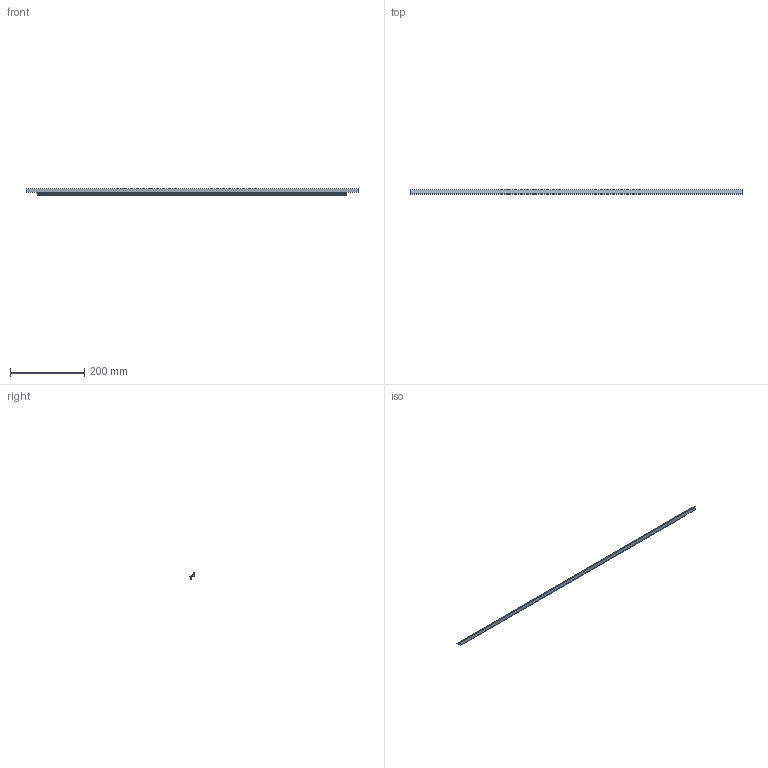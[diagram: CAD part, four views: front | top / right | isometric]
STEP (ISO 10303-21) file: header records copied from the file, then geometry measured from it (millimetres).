
FILE_DESCRIPTION( ( 'STEP AP214' ), '1' );
FILE_NAME( 'D:/Shahbaz D&D/Task/Working-ON/Correct Handle bar Riaza/QC/9208094/9208095.stp', '2023-03-13T09:07:35', ( '' ), ( '' ), ' ', 'PARTsolutions', ' ' );
FILE_SCHEMA( ( 'AUTOMOTIVE_DESIGN { 1 0 10303 214 1 1 1 1 }' ) );
Length unit declared in the file: millimetre
Products named in the file (1): _9208095
Bounding box: 895 x 12.49 x 17.98 mm (x, y, z)
Volume: 50929.4 mm3; surface area: 52321.3 mm2
Topology: 1 solids, 1 shells, 28 faces, 75 edges, 50 vertices
Faces by surface type: plane 25, cylinder 3
Entity records: 1105 total; most frequent: CARTESIAN_POINT 154, ORIENTED_EDGE 150, DIRECTION 139, EDGE_CURVE 75, LINE 69, VECTOR 69, VERTEX_POINT 50, AXIS2_PLACEMENT_3D 35
